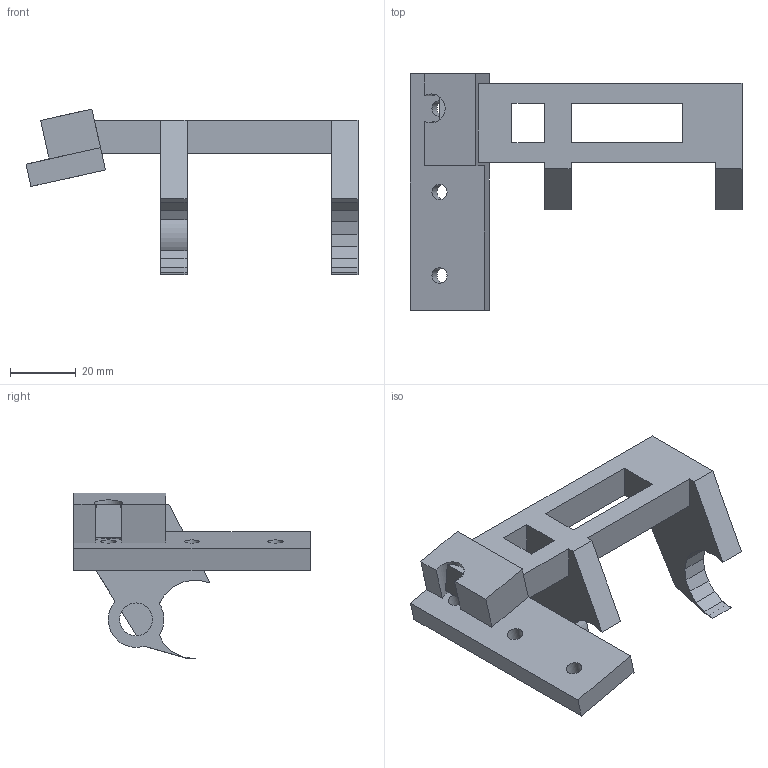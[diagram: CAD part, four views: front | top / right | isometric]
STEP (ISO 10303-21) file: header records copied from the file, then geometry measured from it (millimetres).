
FILE_DESCRIPTION(('Open CASCADE Model'),'2;1');
FILE_NAME('Open CASCADE Shape Model','2026-10-15T19:48:39',('Author'),( 'Open CASCADE'),'Open CASCADE STEP processor 7.9','Open CASCADE 7.9' ,'Unknown');
FILE_SCHEMA(('AUTOMOTIVE_DESIGN { 1 0 10303 214 1 1 1 1 }'));
Length unit declared in the file: millimetre
Products named in the file (1): Open CASCADE STEP translator 7.9 1
Bounding box: 100.98 x 72 x 50.42 mm (x, y, z)
Volume: 41684 mm3; surface area: 16427 mm2
Topology: 1 solids, 1 shells, 64 faces, 186 edges, 124 vertices
Faces by surface type: plane 57, cylinder 7
Full cylindrical faces by diameter (mm): 4.7 x3, 10 x1
Entity records: 4541 total; most frequent: CARTESIAN_POINT 912, DIRECTION 629, LINE 455, VECTOR 455, ORIENTED_EDGE 372, PCURVE 372, DEFINITIONAL_REPRESENTATION 372, EDGE_CURVE 186
